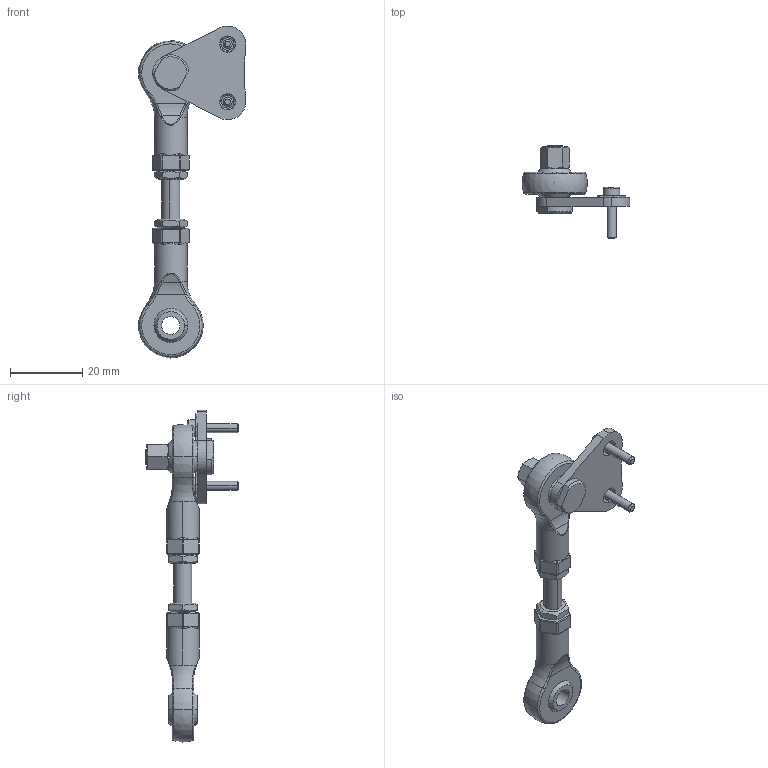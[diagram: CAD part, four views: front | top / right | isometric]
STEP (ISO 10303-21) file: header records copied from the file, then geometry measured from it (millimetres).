
FILE_DESCRIPTION (( 'STEP AP214' ), '1' );
FILE_NAME ('8.0010.40S1.0000.STEP', '2016-06-23T07:42:37', ( 'admin' ), ( 'Microsoft' ), 'SwSTEP 2.0', 'SolidWorks 2013', '' );
FILE_SCHEMA (( 'AUTOMOTIVE_DESIGN' ));
Length unit declared in the file: millimetre
Products named in the file (1): 8.0010.40S1.0000
Bounding box: 29.75 x 26 x 92 mm (x, y, z)
Surface area: 5300 mm2 (no closed solid volume)
Topology: 0 solids, 15 shells, 351 faces, 961 edges, 598 vertices
Faces by surface type: plane 124, cylinder 97, bspline 52, cone 32, torus 32, sphere 14
Entity records: 16133 total; most frequent: CARTESIAN_POINT 3837, ORIENTED_EDGE 1776, DIRECTION 1731, EDGE_CURVE 931, AXIS2_PLACEMENT_3D 680, VERTEX_POINT 594, CIRCLE 380, EDGE_LOOP 375
